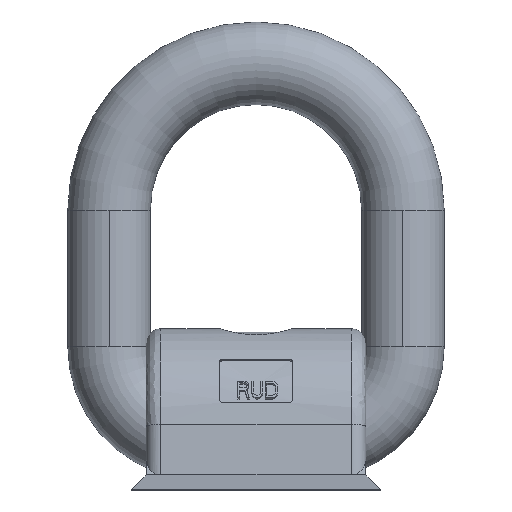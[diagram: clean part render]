
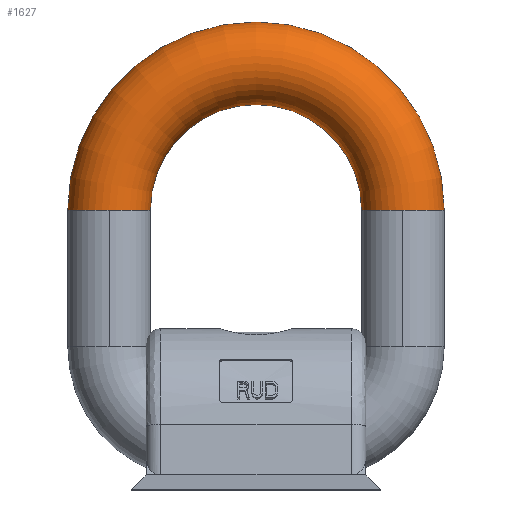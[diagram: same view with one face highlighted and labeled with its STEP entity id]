
A CAD part, top view. The second image highlights one B-rep face of the part: STEP entity #1627.
In plain terms, the highlighted toroidal (fillet/blend) face has major radius 45.2 mm and minor radius 12.7 mm.
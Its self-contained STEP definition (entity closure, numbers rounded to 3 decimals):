
#1594 = DIRECTION ( 'NONE',  ( -1., 0., 0. ) ) ;
#1597 = CARTESIAN_POINT ( 'NONE',  ( 0., 0., 0. ) ) ;
#1599 = DIRECTION ( 'NONE',  ( 0., 0., -1. ) ) ;
#1627 = ADVANCED_FACE ( 'NONE', ( #6493 ), #6511, .T. ) ;
#1986 = CARTESIAN_POINT ( 'NONE',  ( -32.5, 0., 0. ) ) ;
#1997 = CARTESIAN_POINT ( 'NONE',  ( -45.2, 0., 12.7 ) ) ;
#2007 = CARTESIAN_POINT ( 'NONE',  ( 57.9, 0., 0. ) ) ;
#2014 = CARTESIAN_POINT ( 'NONE',  ( -57.9, 0., 0. ) ) ;
#2015 = CARTESIAN_POINT ( 'NONE',  ( 32.5, 0., 0. ) ) ;
#2016 = CARTESIAN_POINT ( 'NONE',  ( 45.2, 0., 12.7 ) ) ;
#2494 = CARTESIAN_POINT ( 'NONE',  ( 45.2, 0., 0. ) ) ;
#2495 = DIRECTION ( 'NONE',  ( 0., 1., 0. ) ) ;
#2496 = DIRECTION ( 'NONE',  ( 0., 0., -1. ) ) ;
#2505 = CARTESIAN_POINT ( 'NONE',  ( -45.2, 0., 0. ) ) ;
#2506 = DIRECTION ( 'NONE',  ( 0., -1., 0. ) ) ;
#2507 = DIRECTION ( 'NONE',  ( 0., 0., -1. ) ) ;
#2537 = CARTESIAN_POINT ( 'NONE',  ( 0., 0., 0. ) ) ;
#2538 = DIRECTION ( 'NONE',  ( 0., 0., -1. ) ) ;
#2539 = DIRECTION ( 'NONE',  ( -1., 0., 0. ) ) ;
#2546 = CARTESIAN_POINT ( 'NONE',  ( 0., 0., 0. ) ) ;
#2547 = DIRECTION ( 'NONE',  ( 0., 0., -1. ) ) ;
#2548 = DIRECTION ( 'NONE',  ( -1., 0., 0. ) ) ;
#2575 = CARTESIAN_POINT ( 'NONE',  ( -45.2, 0., 0. ) ) ;
#2576 = DIRECTION ( 'NONE',  ( 0., -1., 0. ) ) ;
#2577 = DIRECTION ( 'NONE',  ( 0., 0., -1. ) ) ;
#2583 = CARTESIAN_POINT ( 'NONE',  ( 45.2, 0., 0. ) ) ;
#2584 = DIRECTION ( 'NONE',  ( 0., 1., 0. ) ) ;
#2585 = DIRECTION ( 'NONE',  ( 0., 0., -1. ) ) ;
#3980 = CIRCLE ( 'NONE', #6145, 12.7 ) ;
#4026 = CIRCLE ( 'NONE', #6138, 12.7 ) ;
#4043 = CIRCLE ( 'NONE', #5921, 32.5 ) ;
#4046 = CIRCLE ( 'NONE', #5947, 57.9 ) ;
#4057 = CIRCLE ( 'NONE', #5918, 12.7 ) ;
#4059 = CIRCLE ( 'NONE', #5916, 12.7 ) ;
#4710 = VERTEX_POINT ( 'NONE', #1986 ) ;
#4762 = EDGE_LOOP ( 'NONE', ( #5681, #5674, #5667, #5666, #5665, #5664 ) ) ;
#5216 = VERTEX_POINT ( 'NONE', #1997 ) ;
#5226 = VERTEX_POINT ( 'NONE', #2007 ) ;
#5233 = VERTEX_POINT ( 'NONE', #2014 ) ;
#5234 = VERTEX_POINT ( 'NONE', #2015 ) ;
#5235 = VERTEX_POINT ( 'NONE', #2016 ) ;
#5664 = ORIENTED_EDGE ( 'NONE', *, *, #5965, .T. ) ;
#5665 = ORIENTED_EDGE ( 'NONE', *, *, #5996, .T. ) ;
#5666 = ORIENTED_EDGE ( 'NONE', *, *, #5981, .T. ) ;
#5667 = ORIENTED_EDGE ( 'NONE', *, *, #5969, .F. ) ;
#5674 = ORIENTED_EDGE ( 'NONE', *, *, #5994, .F. ) ;
#5681 = ORIENTED_EDGE ( 'NONE', *, *, #5984, .F. ) ;
#5916 = AXIS2_PLACEMENT_3D ( 'NONE', #2583, #2584, #2585 ) ;
#5918 = AXIS2_PLACEMENT_3D ( 'NONE', #2575, #2576, #2577 ) ;
#5921 = AXIS2_PLACEMENT_3D ( 'NONE', #2537, #2538, #2539 ) ;
#5947 = AXIS2_PLACEMENT_3D ( 'NONE', #2546, #2547, #2548 ) ;
#5961 = AXIS2_PLACEMENT_3D ( 'NONE', #1597, #1599, #1594 ) ;
#5965 = EDGE_CURVE ( 'NONE', #5235, #5226, #3980, .T. ) ;
#5969 = EDGE_CURVE ( 'NONE', #4710, #5216, #4026, .T. ) ;
#5981 = EDGE_CURVE ( 'NONE', #4710, #5234, #4043, .T. ) ;
#5984 = EDGE_CURVE ( 'NONE', #5233, #5226, #4046, .T. ) ;
#5994 = EDGE_CURVE ( 'NONE', #5216, #5233, #4057, .T. ) ;
#5996 = EDGE_CURVE ( 'NONE', #5234, #5235, #4059, .T. ) ;
#6138 = AXIS2_PLACEMENT_3D ( 'NONE', #2505, #2506, #2507 ) ;
#6145 = AXIS2_PLACEMENT_3D ( 'NONE', #2494, #2495, #2496 ) ;
#6493 = FACE_OUTER_BOUND ( 'NONE', #4762, .T. ) ;
#6511 = TOROIDAL_SURFACE ( 'NONE', #5961, 45.2, 12.7 ) ;
